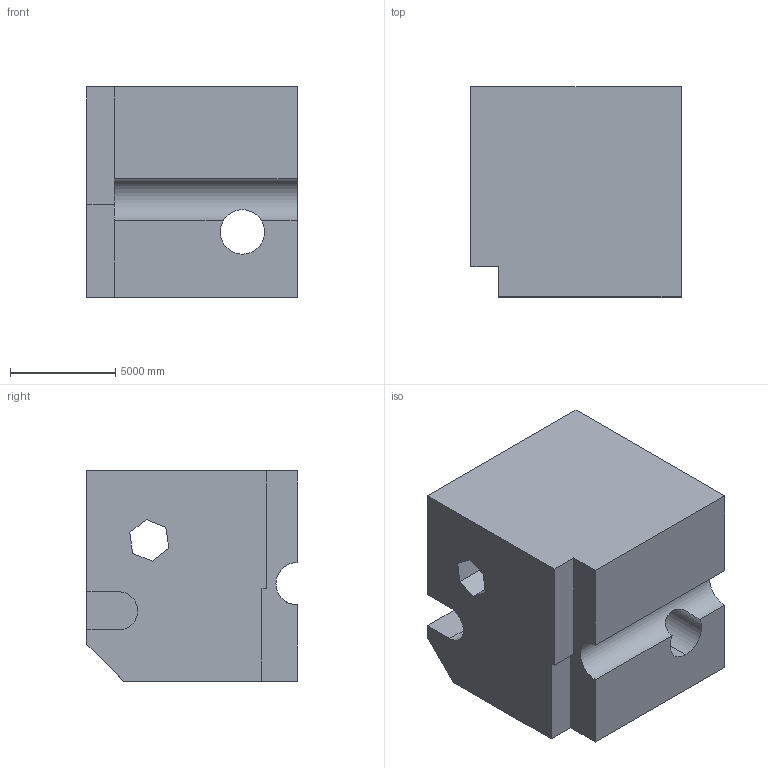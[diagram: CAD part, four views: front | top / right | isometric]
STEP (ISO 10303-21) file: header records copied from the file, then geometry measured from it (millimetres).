
FILE_DESCRIPTION (( 'STEP AP203' ), '1' );
FILE_NAME ('756.STEP', '2022-07-29T12:59:14', ( 'user' ), ( '' ), 'SwSTEP 2.0', 'SolidWorks 2021', '' );
FILE_SCHEMA (( 'CONFIG_CONTROL_DESIGN' ));
Length unit declared in the file: centimetre
Products named in the file (1): 756
Bounding box: 10000 x 10000 x 10000 mm (x, y, z)
Volume: 878395742989.6 mm3; surface area: 706260458.3 mm2
Topology: 1 solids, 1 shells, 27 faces, 78 edges, 52 vertices
Faces by surface type: plane 23, cylinder 4
Entity records: 1128 total; most frequent: CARTESIAN_POINT 325, ORIENTED_EDGE 156, DIRECTION 140, EDGE_CURVE 78, LINE 68, VECTOR 68, VERTEX_POINT 52, AXIS2_PLACEMENT_3D 36
